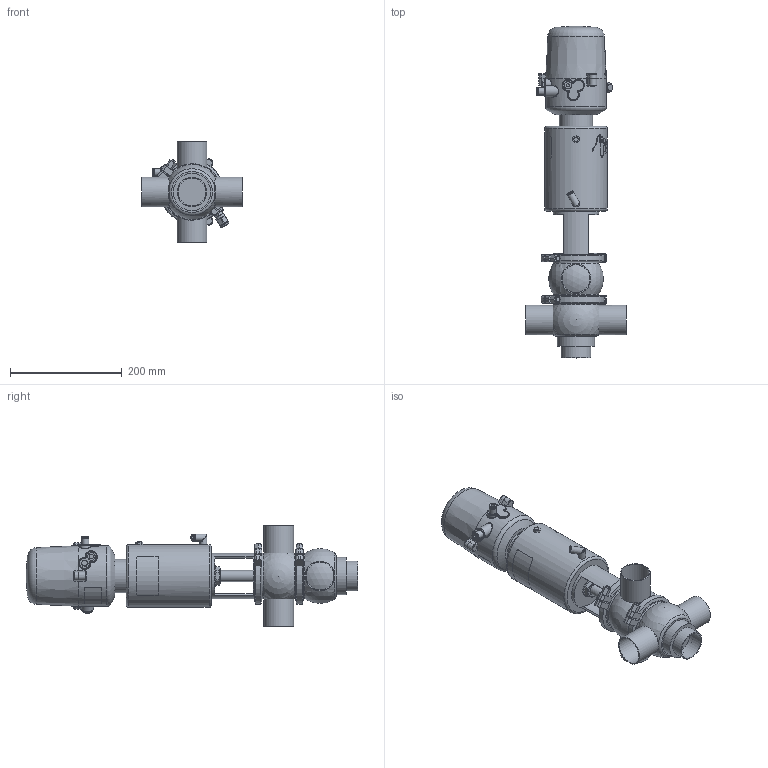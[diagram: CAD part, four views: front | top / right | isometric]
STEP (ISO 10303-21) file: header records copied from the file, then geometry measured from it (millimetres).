
FILE_DESCRIPTION (( 'STEP AP214' ), '1' );
FILE_NAME ('INNOVA K G W DIN 050 T2 AS NC & C-TOP S_10.240.16.0082.STEP', '2024-08-06T09:04:04', ( '' ), ( '' ), 'SwSTEP 2.0', 'SolidWorks 2023', '' );
FILE_SCHEMA (( 'AUTOMOTIVE_DESIGN' ));
Length unit declared in the file: millimetre
Products named in the file (8): 10.426.15.0001_C-TOP S - 1 EV; 10.240.15.0001_DN 050; 10.240.15.0010_DN 050; 10.240.15.0014_T2 AS P0; INNOVA K G W DIN 050 T2 AS NC & C-TOP S_10.240.16.0082; 10.240.15.0007_DIN 050; 10.240.15.0017_Estàndard; 10.240.15.0003_DIN 050
Assembly tree (8 placements, depth 2):
  INNOVA K G W DIN 050 T2 AS NC & C-TOP S_10.240.16.0082
    10.240.15.0007_DIN 050
    10.240.15.0003_DIN 050
    10.240.15.0010_DN 050
    10.240.15.0014_T2 AS P0
    10.240.15.0017_Estàndard
    10.426.15.0001_C-TOP S - 1 EV
    10.240.15.0001_DN 050  x2
Bounding box: 180 x 595 x 180 mm (x, y, z)
Volume: 4175444.4 mm3; surface area: 386395.9 mm2
Topology: 8 solids, 8 shells, 1180 faces, 2846 edges, 1895 vertices
Faces by surface type: plane 412, cylinder 360, cone 201, bspline 160, torus 37, sphere 10
Full cylindrical faces by diameter (mm): 0.371 x17, 0.512 x16, 0.658 x16, 0.795 x16, 0.94 x15, 1.098 x15, 1.241 x13, 1.382 x13, 1.523 x11, 1.669 x10, 2.201 x1, 4 x2, 5.5 x2, 6 x2, 6.15 x1, 8 x6, 8.5 x1, 10 x1, 10.5 x1, 11 x2, 12.5 x3, 13 x2, 13.5 x2, 16 x1, 17 x3, 20 x3, 20.5 x1, 22 x2, 31 x1, 34.5 x3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
Entity records: 58224 total; most frequent: CARTESIAN_POINT 27881, ORIENTED_EDGE 4530, DIRECTION 3681, EDGE_CURVE 2265, VERTEX_POINT 1614, EDGE_LOOP 1585, AXIS2_PLACEMENT_3D 1512, FACE_OUTER_BOUND 1343
